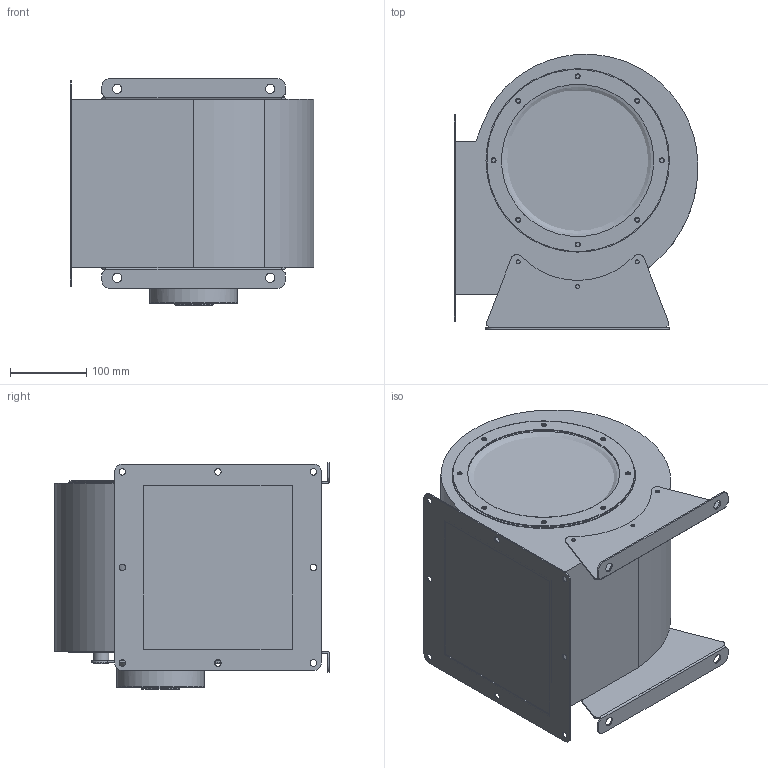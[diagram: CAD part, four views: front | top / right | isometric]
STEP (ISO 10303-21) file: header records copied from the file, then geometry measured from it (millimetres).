
FILE_DESCRIPTION(/* description */ ('Unknown'),/* implementation_level */ '2;1');
FILE_NAME(/* name */ 'CY190DM4P1-EG 型錄',/* time_stamp */ '2026-03-20T09:33:31+08:00',/* author */ ('Unknown'),/* organization */ ('Unknown'),/* preprocessor_version */ 'ST-DEVELOPER v20',/* originating_system */ 'Solid Edge',/* authorisation */ 'Unknown');
FILE_SCHEMA (('AUTOMOTIVE_DESIGN {1 0 10303 214 3 1 1}'));
Length unit declared in the file: millimetre
Products named in the file (7): CY190DM4P1-EG; CY190DM-01-G; CY190DM-08a; CY190DM-04-2; CY190DM-07U; CYDM-08-2-NOVA; JM190DM4P3-EG
Assembly tree (11 placements, depth 2):
  CY190DM4P1-EG
    CY190DM-01-G
    CY190DM-08a  x2
    CY190DM-04-2
    CY190DM-07U  x2
    CYDM-08-2-NOVA  x4
    JM190DM4P3-EG
Bounding box: 318.62 x 359.6 x 296.5 mm (x, y, z)
Volume: 19535925.7 mm3; surface area: 792191.9 mm2
Topology: 11 solids, 11 shells, 282 faces, 642 edges, 423 vertices
Faces by surface type: cylinder 127, plane 119, cone 26, torus 8, bspline 2
Full cylindrical faces by diameter (mm): 5.2 x28, 6.5 x24, 8.5 x8, 9 x4, 12.1 x4, 13.5 x8, 14 x1, 15 x1, 20 x8, 51 x2, 115 x1, 199 x1, 200 x2, 238 x1, 240 x2
Entity records: 5426 total; most frequent: DIRECTION 954, CARTESIAN_POINT 927, ORIENTED_EDGE 682, AXIS2_PLACEMENT_3D 411, EDGE_LOOP 386, FACE_BOUND 386, EDGE_CURVE 341, VERTEX_POINT 275
